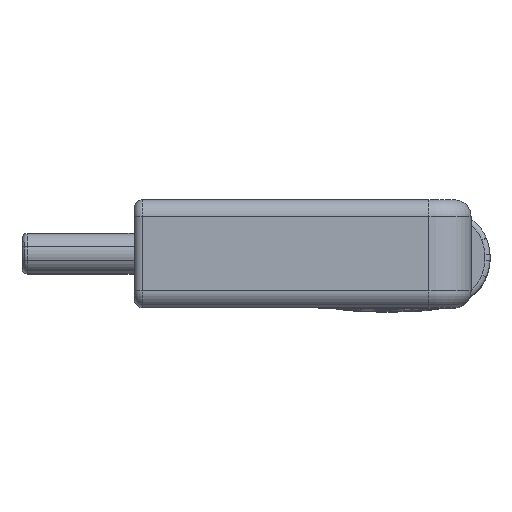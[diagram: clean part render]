
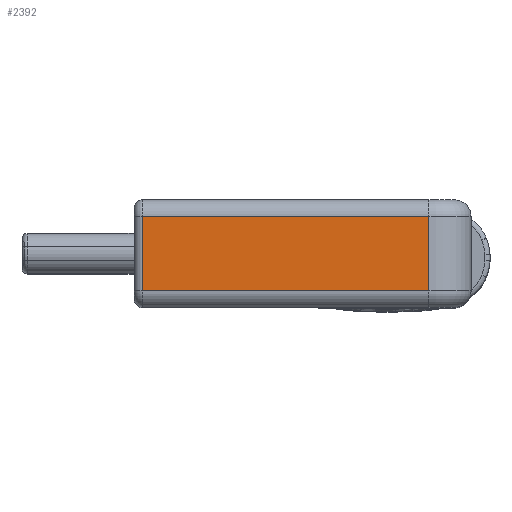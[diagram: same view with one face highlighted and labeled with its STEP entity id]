
A CAD part, top view. The second image highlights one B-rep face of the part: STEP entity #2392.
In plain terms, the highlighted planar face has unit normal (0, 0, 1).
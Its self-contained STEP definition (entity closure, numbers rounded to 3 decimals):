
#139 = EDGE_LOOP ( 'NONE', ( #3897, #8476, #6292, #7681 ) ) ;
#235 = DIRECTION ( 'NONE',  ( -1., 0., 0. ) ) ;
#272 = CARTESIAN_POINT ( 'NONE',  ( -15., 2.2, 161.75 ) ) ;
#328 = LINE ( 'NONE', #3163, #8807 ) ;
#957 = AXIS2_PLACEMENT_3D ( 'NONE', #3265, #5255, #8862 ) ;
#1311 = DIRECTION ( 'NONE',  ( 0., -1., 0. ) ) ;
#1536 = PLANE ( 'NONE',  #957 ) ;
#1591 = CARTESIAN_POINT ( 'NONE',  ( -14.5, 2.2, 161.75 ) ) ;
#2392 = ADVANCED_FACE ( 'NONE', ( #11464 ), #1536, .F. ) ;
#2414 = LINE ( 'NONE', #2588, #7385 ) ;
#2588 = CARTESIAN_POINT ( 'NONE',  ( -15., -2.2, 161.75 ) ) ;
#3163 = CARTESIAN_POINT ( 'NONE',  ( -14.5, 3.2, 161.75 ) ) ;
#3265 = CARTESIAN_POINT ( 'NONE',  ( -15., 3.2, 161.75 ) ) ;
#3566 = LINE ( 'NONE', #272, #3710 ) ;
#3710 = VECTOR ( 'NONE', #235, 1000. ) ;
#3823 = VERTEX_POINT ( 'NONE', #1591 ) ;
#3897 = ORIENTED_EDGE ( 'NONE', *, *, #6896, .T. ) ;
#4150 = LINE ( 'NONE', #7321, #4439 ) ;
#4230 = VERTEX_POINT ( 'NONE', #11014 ) ;
#4439 = VECTOR ( 'NONE', #1311, 1000. ) ;
#4814 = CARTESIAN_POINT ( 'NONE',  ( -14.5, -2.2, 161.75 ) ) ;
#5255 = DIRECTION ( 'NONE',  ( 0., 0., -1. ) ) ;
#5482 = EDGE_CURVE ( 'NONE', #7139, #4230, #4150, .T. ) ;
#6292 = ORIENTED_EDGE ( 'NONE', *, *, #9257, .T. ) ;
#6896 = EDGE_CURVE ( 'NONE', #7139, #3823, #3566, .T. ) ;
#7139 = VERTEX_POINT ( 'NONE', #9266 ) ;
#7321 = CARTESIAN_POINT ( 'NONE',  ( 2.5, 3.2, 161.75 ) ) ;
#7385 = VECTOR ( 'NONE', #10736, 1000. ) ;
#7681 = ORIENTED_EDGE ( 'NONE', *, *, #5482, .F. ) ;
#8006 = EDGE_CURVE ( 'NONE', #3823, #8466, #328, .T. ) ;
#8466 = VERTEX_POINT ( 'NONE', #4814 ) ;
#8476 = ORIENTED_EDGE ( 'NONE', *, *, #8006, .T. ) ;
#8559 = DIRECTION ( 'NONE',  ( 0., -1., 0. ) ) ;
#8807 = VECTOR ( 'NONE', #8559, 1000. ) ;
#8862 = DIRECTION ( 'NONE',  ( -1., 0., 0. ) ) ;
#9257 = EDGE_CURVE ( 'NONE', #8466, #4230, #2414, .T. ) ;
#9266 = CARTESIAN_POINT ( 'NONE',  ( 2.5, 2.2, 161.75 ) ) ;
#10736 = DIRECTION ( 'NONE',  ( 1., 0., 0. ) ) ;
#11014 = CARTESIAN_POINT ( 'NONE',  ( 2.5, -2.2, 161.75 ) ) ;
#11464 = FACE_OUTER_BOUND ( 'NONE', #139, .T. ) ;
